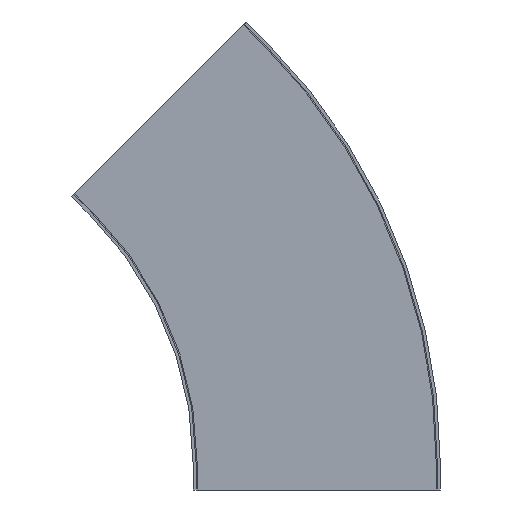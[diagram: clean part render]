
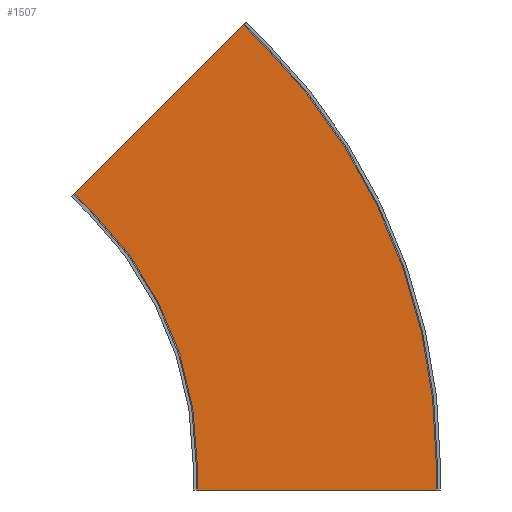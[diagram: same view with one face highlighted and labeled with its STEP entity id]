
A CAD part, front view. The second image highlights one B-rep face of the part: STEP entity #1507.
In plain terms, the highlighted planar face has unit normal (0, -1, 0).
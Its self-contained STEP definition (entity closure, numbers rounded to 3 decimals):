
#5 = EDGE_CURVE ( 'NONE', #1604, #2476, #153, .T. ) ;
#100 = VERTEX_POINT ( 'NONE', #908 ) ;
#153 = CIRCLE ( 'NONE', #1588, 1201.3 ) ;
#249 = CARTESIAN_POINT ( 'NONE',  ( 0., -68.25, -52.5 ) ) ;
#270 = FACE_OUTER_BOUND ( 'NONE', #1530, .T. ) ;
#287 = PLANE ( 'NONE',  #567 ) ;
#292 = LINE ( 'NONE', #1199, #623 ) ;
#330 = ORIENTED_EDGE ( 'NONE', *, *, #822, .T. ) ;
#382 = VECTOR ( 'NONE', #1956, 1000. ) ;
#496 = CARTESIAN_POINT ( 'NONE',  ( 718.7, -68.25, -52.5 ) ) ;
#506 = LINE ( 'NONE', #1583, #977 ) ;
#539 = VERTEX_POINT ( 'NONE', #1839 ) ;
#567 = AXIS2_PLACEMENT_3D ( 'NONE', #649, #2180, #1824 ) ;
#604 = VERTEX_POINT ( 'NONE', #1277 ) ;
#623 = VECTOR ( 'NONE', #2164, 1000. ) ;
#649 = CARTESIAN_POINT ( 'NONE',  ( 508.198, -68.25, 508.198 ) ) ;
#657 = CARTESIAN_POINT ( 'NONE',  ( 508.198, -68.25, 508.198 ) ) ;
#676 = LINE ( 'NONE', #2076, #2132 ) ;
#687 = LINE ( 'NONE', #989, #382 ) ;
#820 = EDGE_CURVE ( 'NONE', #539, #2476, #687, .T. ) ;
#822 = EDGE_CURVE ( 'NONE', #1312, #604, #1487, .T. ) ;
#849 = ORIENTED_EDGE ( 'NONE', *, *, #1035, .F. ) ;
#868 = ORIENTED_EDGE ( 'NONE', *, *, #1441, .F. ) ;
#908 = CARTESIAN_POINT ( 'NONE',  ( 812.324, -68.25, 886.57 ) ) ;
#919 = LINE ( 'NONE', #1169, #2147 ) ;
#924 = ORIENTED_EDGE ( 'NONE', *, *, #5, .F. ) ;
#977 = VECTOR ( 'NONE', #2314, 1000. ) ;
#989 = CARTESIAN_POINT ( 'NONE',  ( 1201.3, -68.25, -52.5 ) ) ;
#996 = CARTESIAN_POINT ( 'NONE',  ( 1201.3, -68.25, 0. ) ) ;
#1035 = EDGE_CURVE ( 'NONE', #100, #1604, #292, .T. ) ;
#1118 = VERTEX_POINT ( 'NONE', #1215 ) ;
#1169 = CARTESIAN_POINT ( 'NONE',  ( 718.7, -68.25, -52.5 ) ) ;
#1199 = CARTESIAN_POINT ( 'NONE',  ( 812.324, -68.25, 886.57 ) ) ;
#1215 = CARTESIAN_POINT ( 'NONE',  ( 471.075, -68.25, 545.321 ) ) ;
#1268 = CARTESIAN_POINT ( 'NONE',  ( 0., -68.25, 0. ) ) ;
#1277 = CARTESIAN_POINT ( 'NONE',  ( 718.7, -68.25, 0. ) ) ;
#1294 = DIRECTION ( 'NONE',  ( 0.707, 0., 0.707 ) ) ;
#1308 = VECTOR ( 'NONE', #1972, 1000. ) ;
#1312 = VERTEX_POINT ( 'NONE', #657 ) ;
#1370 = LINE ( 'NONE', #249, #1308 ) ;
#1393 = ORIENTED_EDGE ( 'NONE', *, *, #1423, .F. ) ;
#1423 = EDGE_CURVE ( 'NONE', #1661, #604, #919, .T. ) ;
#1441 = EDGE_CURVE ( 'NONE', #539, #1661, #1370, .T. ) ;
#1456 = EDGE_CURVE ( 'NONE', #1118, #1312, #506, .T. ) ;
#1487 = CIRCLE ( 'NONE', #2389, 718.7 ) ;
#1507 = ADVANCED_FACE ( 'NONE', ( #270 ), #287, .F. ) ;
#1530 = EDGE_LOOP ( 'NONE', ( #330, #1393, #868, #2334, #924, #849, #2003, #2200 ) ) ;
#1583 = CARTESIAN_POINT ( 'NONE',  ( 471.075, -68.25, 545.321 ) ) ;
#1588 = AXIS2_PLACEMENT_3D ( 'NONE', #1268, #2210, #2409 ) ;
#1592 = DIRECTION ( 'NONE',  ( 0., 1., 0. ) ) ;
#1604 = VERTEX_POINT ( 'NONE', #2405 ) ;
#1661 = VERTEX_POINT ( 'NONE', #496 ) ;
#1767 = DIRECTION ( 'NONE',  ( -1., 0., 0. ) ) ;
#1772 = EDGE_CURVE ( 'NONE', #1118, #100, #676, .T. ) ;
#1824 = DIRECTION ( 'NONE',  ( -1., 0., 0. ) ) ;
#1839 = CARTESIAN_POINT ( 'NONE',  ( 1201.3, -68.25, -52.5 ) ) ;
#1933 = DIRECTION ( 'NONE',  ( 0., 0., 1. ) ) ;
#1956 = DIRECTION ( 'NONE',  ( 0., 0., 1. ) ) ;
#1965 = CARTESIAN_POINT ( 'NONE',  ( 0., -68.25, 0. ) ) ;
#1972 = DIRECTION ( 'NONE',  ( -1., 0., 0. ) ) ;
#2003 = ORIENTED_EDGE ( 'NONE', *, *, #1772, .F. ) ;
#2076 = CARTESIAN_POINT ( 'NONE',  ( -37.123, -68.25, 37.123 ) ) ;
#2132 = VECTOR ( 'NONE', #1294, 1000. ) ;
#2147 = VECTOR ( 'NONE', #1933, 1000. ) ;
#2164 = DIRECTION ( 'NONE',  ( 0.707, 0., -0.707 ) ) ;
#2180 = DIRECTION ( 'NONE',  ( 0., 1., 0. ) ) ;
#2200 = ORIENTED_EDGE ( 'NONE', *, *, #1456, .T. ) ;
#2210 = DIRECTION ( 'NONE',  ( 0., 1., 0. ) ) ;
#2314 = DIRECTION ( 'NONE',  ( 0.707, 0., -0.707 ) ) ;
#2334 = ORIENTED_EDGE ( 'NONE', *, *, #820, .T. ) ;
#2389 = AXIS2_PLACEMENT_3D ( 'NONE', #1965, #1592, #1767 ) ;
#2405 = CARTESIAN_POINT ( 'NONE',  ( 849.447, -68.25, 849.447 ) ) ;
#2409 = DIRECTION ( 'NONE',  ( -1., 0., 0. ) ) ;
#2476 = VERTEX_POINT ( 'NONE', #996 ) ;
